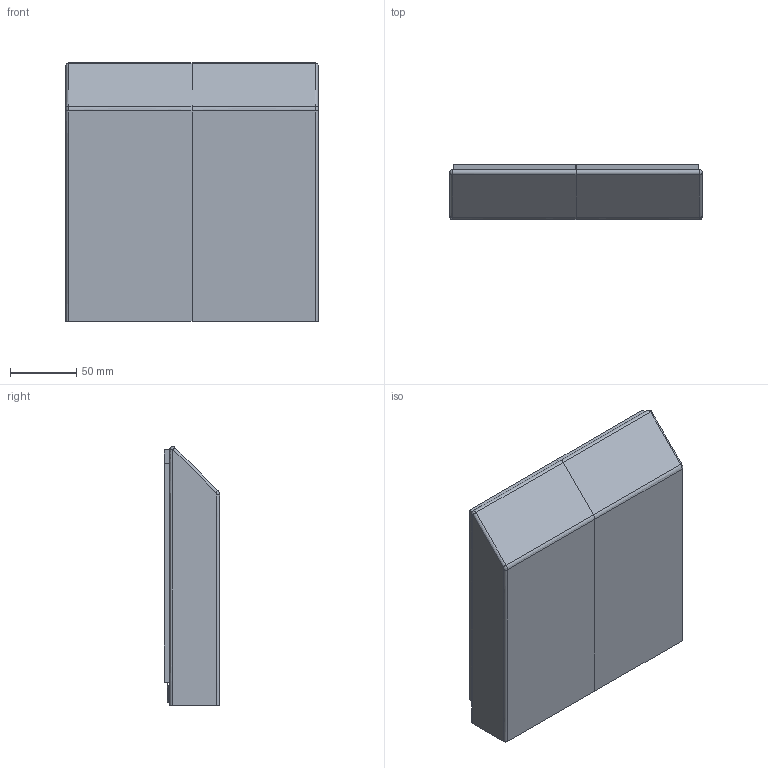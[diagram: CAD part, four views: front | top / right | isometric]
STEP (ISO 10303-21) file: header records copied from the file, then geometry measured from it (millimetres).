
FILE_DESCRIPTION(/* description */ (''),/* implementation_level */ '2;1');
FILE_NAME(/* name */ 'ssc-12 (x clienti)',/* time_stamp */ '2016-04-15T09:26:50+02:00',/* author */ (''),/* organization */ (''),/* preprocessor_version */ 'ST-DEVELOPER v10',/* originating_system */ '',/* authorisation */ '');
FILE_SCHEMA (('CONFIG_CONTROL_DESIGN'));
Length unit declared in the file: millimetre
Products named in the file (1): 1
Bounding box: 190 x 41.5 x 195 mm (x, y, z)
Volume: 86120.7 mm3; surface area: 156585.9 mm2
Topology: 12 solids, 12 shells, 164 faces, 402 edges, 262 vertices
Faces by surface type: bspline 108, plane 56
Entity records: 5470 total; most frequent: CARTESIAN_POINT 3022, ORIENTED_EDGE 804, EDGE_CURVE 402, VERTEX_POINT 262, B_SPLINE_CURVE_WITH_KNOTS 170, ADVANCED_FACE 164, FACE_OUTER_BOUND 164, EDGE_LOOP 164
